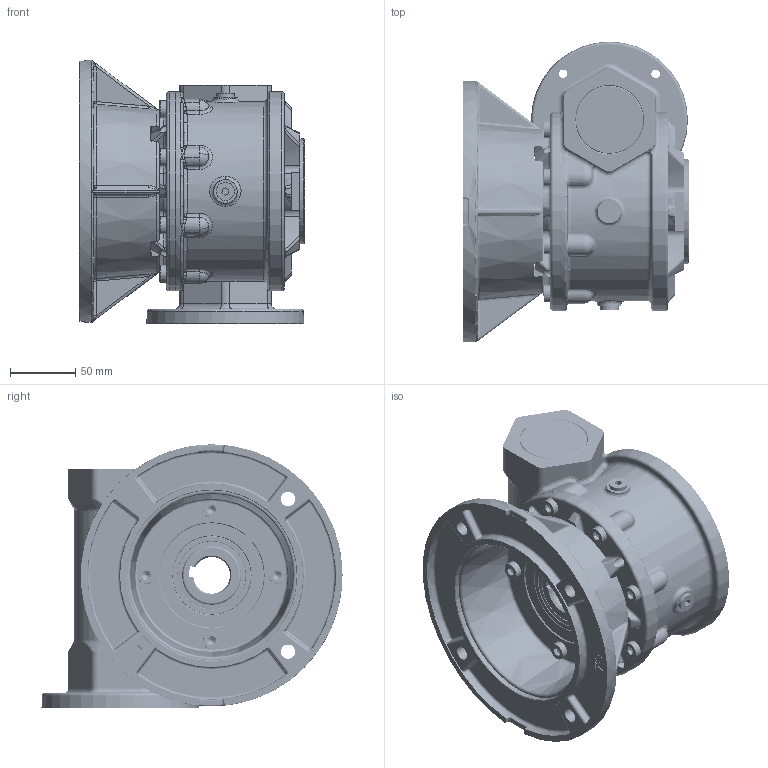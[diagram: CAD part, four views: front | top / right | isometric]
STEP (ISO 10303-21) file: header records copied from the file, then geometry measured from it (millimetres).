
FILE_DESCRIPTION (( 'STEP AP203' ), '1' );
FILE_NAME ('Sestava MRT70A-FF.STEP', '2005-08-15T10:40:10', ( '' ), ( '' ), 'SwSTEP 2.0', 'SolidWorks 2004146', '' );
FILE_SCHEMA (( 'CONFIG_CONTROL_DESIGN' ));
Products named in the file (1): Sestava MRT70A-FF
Bounding box: 172 x 230 x 201 mm (x, y, z)
Volume: 1725968.4 mm3; surface area: 541391.9 mm2
Topology: 35 solids, 35 shells, 3644 faces, 8969 edges, 5129 vertices
Faces by surface type: torus 853, cylinder 806, plane 690, cone 609, bspline 548, sphere 138
Entity records: 385728 total; most frequent: CARTESIAN_POINT 304590, ORIENTED_EDGE 17238, DIRECTION 17060, EDGE_CURVE 8619, AXIS2_PLACEMENT_3D 7558, VERTEX_POINT 5047, CIRCLE 4461, EDGE_LOOP 3884
